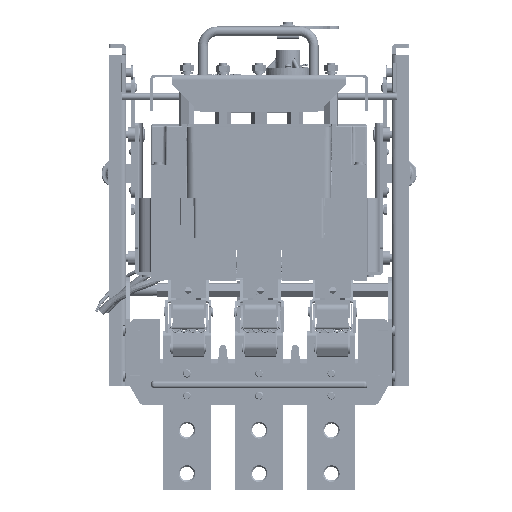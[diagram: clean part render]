
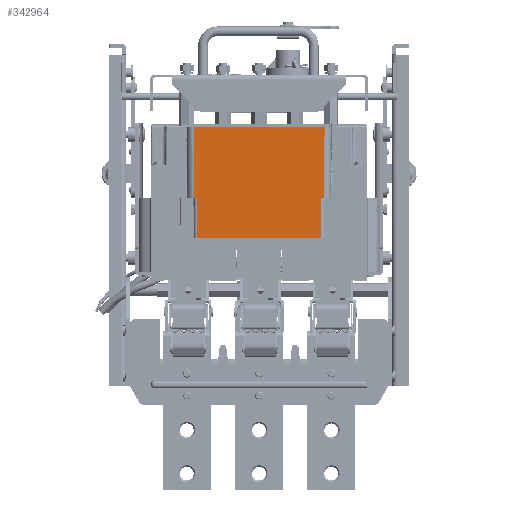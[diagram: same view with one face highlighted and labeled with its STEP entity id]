
A CAD part, front view. The second image highlights one B-rep face of the part: STEP entity #342964.
In plain terms, the highlighted planar face has unit normal (0, -1, -0.006).
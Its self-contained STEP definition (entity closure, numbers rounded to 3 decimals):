
#135381 = VERTEX_POINT ( 'NONE', #181656 ) ;
#135391 = EDGE_CURVE ( 'NONE', #135396, #135381, #181629, .T. ) ;
#135396 = VERTEX_POINT ( 'NONE', #181616 ) ;
#135441 = VERTEX_POINT ( 'NONE', #181731 ) ;
#135445 = EDGE_CURVE ( 'NONE', #135449, #135441, #181829, .T. ) ;
#135449 = VERTEX_POINT ( 'NONE', #181824 ) ;
#181616 = CARTESIAN_POINT ( 'NONE',  ( -67.679, -189.878, 185.083 ) ) ;
#181626 = DIRECTION ( 'NONE',  ( 0., 0.006, -1. ) ) ;
#181627 = VECTOR ( 'NONE', #181626, 1000. ) ;
#181628 = CARTESIAN_POINT ( 'NONE',  ( -67.679, -189.641, 144.083 ) ) ;
#181629 = LINE ( 'NONE', #181628, #181627 ) ;
#181656 = CARTESIAN_POINT ( 'NONE',  ( -67.679, -189.641, 144.083 ) ) ;
#181731 = CARTESIAN_POINT ( 'NONE',  ( 65.021, -190.307, 259.583 ) ) ;
#181824 = CARTESIAN_POINT ( 'NONE',  ( 64.753, -189.878, 185.083 ) ) ;
#181825 = DIRECTION ( 'NONE',  ( 0.004, -0.006, 1. ) ) ;
#181827 = VECTOR ( 'NONE', #181825, 1000. ) ;
#181828 = CARTESIAN_POINT ( 'NONE',  ( 65.021, -190.307, 259.608 ) ) ;
#181829 = LINE ( 'NONE', #181828, #181827 ) ;
#340501 = EDGE_CURVE ( 'NONE', #135449, #340510, #343669, .T. ) ;
#340510 = VERTEX_POINT ( 'NONE', #343658 ) ;
#342697 = ORIENTED_EDGE ( 'NONE', *, *, #135445, .T. ) ;
#342720 = ORIENTED_EDGE ( 'NONE', *, *, #342737, .F. ) ;
#342737 = EDGE_CURVE ( 'NONE', #342747, #135441, #477155, .T. ) ;
#342747 = VERTEX_POINT ( 'NONE', #477145 ) ;
#342939 = EDGE_CURVE ( 'NONE', #135381, #344150, #477312, .T. ) ;
#342964 = ADVANCED_FACE ( 'NONE', ( #477413 ), #477411, .T. ) ;
#342975 = EDGE_LOOP ( 'NONE', ( #342997, #343016, #343045, #342697, #342720, #343068, #343091, #343129 ) ) ;
#342997 = ORIENTED_EDGE ( 'NONE', *, *, #342939, .T. ) ;
#343016 = ORIENTED_EDGE ( 'NONE', *, *, #344140, .T. ) ;
#343045 = ORIENTED_EDGE ( 'NONE', *, *, #340501, .F. ) ;
#343068 = ORIENTED_EDGE ( 'NONE', *, *, #343075, .T. ) ;
#343075 = EDGE_CURVE ( 'NONE', #342747, #343080, #477447, .T. ) ;
#343080 = VERTEX_POINT ( 'NONE', #477440 ) ;
#343091 = ORIENTED_EDGE ( 'NONE', *, *, #343110, .F. ) ;
#343110 = EDGE_CURVE ( 'NONE', #135396, #343080, #477541, .T. ) ;
#343129 = ORIENTED_EDGE ( 'NONE', *, *, #135391, .T. ) ;
#343658 = CARTESIAN_POINT ( 'NONE',  ( 61.721, -189.878, 185.083 ) ) ;
#343662 = DIRECTION ( 'NONE',  ( -1., 0., 0. ) ) ;
#343664 = VECTOR ( 'NONE', #343662, 1000. ) ;
#343666 = CARTESIAN_POINT ( 'NONE',  ( 72.021, -189.878, 185.083 ) ) ;
#343669 = LINE ( 'NONE', #343666, #343664 ) ;
#344140 = EDGE_CURVE ( 'NONE', #344150, #340510, #346755, .T. ) ;
#344150 = VERTEX_POINT ( 'NONE', #346739 ) ;
#346739 = CARTESIAN_POINT ( 'NONE',  ( 61.721, -189.641, 144.083 ) ) ;
#346747 = DIRECTION ( 'NONE',  ( 0., -0.006, 1. ) ) ;
#346750 = VECTOR ( 'NONE', #346747, 1000. ) ;
#346754 = CARTESIAN_POINT ( 'NONE',  ( 61.721, -189.878, 185.083 ) ) ;
#346755 = LINE ( 'NONE', #346754, #346750 ) ;
#477145 = CARTESIAN_POINT ( 'NONE',  ( -70.979, -190.307, 259.583 ) ) ;
#477150 = DIRECTION ( 'NONE',  ( 1., 0., 0. ) ) ;
#477151 = VECTOR ( 'NONE', #477150, 1000. ) ;
#477154 = CARTESIAN_POINT ( 'NONE',  ( 72.021, -190.307, 259.583 ) ) ;
#477155 = LINE ( 'NONE', #477154, #477151 ) ;
#477306 = DIRECTION ( 'NONE',  ( 1., 0., 0. ) ) ;
#477308 = VECTOR ( 'NONE', #477306, 1000. ) ;
#477310 = CARTESIAN_POINT ( 'NONE',  ( 72.021, -189.641, 144.083 ) ) ;
#477312 = LINE ( 'NONE', #477310, #477308 ) ;
#477406 = DIRECTION ( 'NONE',  ( 0., -0.006, 1. ) ) ;
#477408 = DIRECTION ( 'NONE',  ( 0., -1., -0.006 ) ) ;
#477409 = CARTESIAN_POINT ( 'NONE',  ( 72.021, -190.307, 259.583 ) ) ;
#477410 = AXIS2_PLACEMENT_3D ( 'NONE', #477409, #477408, #477406 ) ;
#477411 = PLANE ( 'NONE',  #477410 ) ;
#477413 = FACE_OUTER_BOUND ( 'NONE', #342975, .T. ) ;
#477440 = CARTESIAN_POINT ( 'NONE',  ( -70.712, -189.878, 185.083 ) ) ;
#477442 = DIRECTION ( 'NONE',  ( 0.004, 0.006, -1. ) ) ;
#477443 = VECTOR ( 'NONE', #477442, 1000. ) ;
#477445 = CARTESIAN_POINT ( 'NONE',  ( -70.978, -190.304, 259.069 ) ) ;
#477447 = LINE ( 'NONE', #477445, #477443 ) ;
#477538 = DIRECTION ( 'NONE',  ( -1., 0., 0. ) ) ;
#477539 = VECTOR ( 'NONE', #477538, 1000. ) ;
#477540 = CARTESIAN_POINT ( 'NONE',  ( 72.021, -189.878, 185.083 ) ) ;
#477541 = LINE ( 'NONE', #477540, #477539 ) ;
